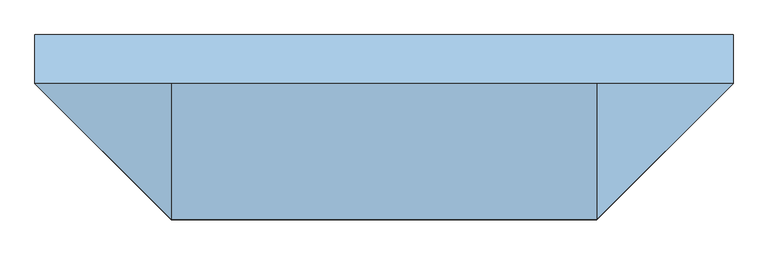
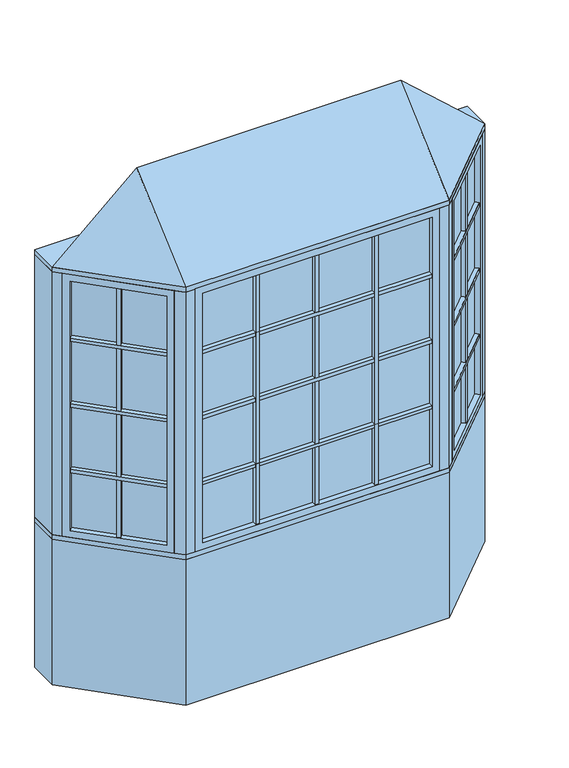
"""IFC4 building model written with IfcOpenShell, lengths in millimetres: window geometry, Pollard_Windows_Tudor Casement Bows and Bays : AML-BAY 45 AFR0514-12-500_GC."""

import ifcopenshell
import ifcopenshell.guid

model = None  # the IFC model being written
_history = None  # IfcOwnerHistory: only IFC2X3 demands one
_inside = {}  # id of a spatial element -> (the spatial element, [elements in it])
_under = {}  # id of a project, library or spatial element -> (it, [spatial elements below it])
_declared = {}  # id of a project -> (the project, [libraries it declares])
_typed = {}  # id of a type object -> (the type object, [elements of that type])
_made_of = {}  # id of a material, layer set ... -> (it, [elements and type objects made of it])


def new_model(schema):
    """Start an empty IFC model of exactly this schema.

    Asked for "IFC4X3", IfcOpenShell would pick the latest addendum, in which some entities
    have other attributes; the version numbers below select the first issue.
    IFC2X3 requires an IfcOwnerHistory on every rooted entity: one is made here for all.
    """
    global model, _history
    if schema == "IFC4X3":
        model = ifcopenshell.file(schema_version=(4, 3, 0, 0))
    else:
        model = ifcopenshell.file(schema=schema)
    _inside.clear()
    _under.clear()
    _declared.clear()
    _typed.clear()
    _made_of.clear()
    _history = None
    if model.schema == "IFC2X3":
        org = make("IfcOrganization", Name="unknown")
        user = make(
            "IfcPersonAndOrganization",
            ThePerson=make("IfcPerson", FamilyName="unknown"),
            TheOrganization=org,
        )
        app = make(
            "IfcApplication",
            ApplicationDeveloper=org,
            Version="unknown",
            ApplicationFullName="unknown",
            ApplicationIdentifier="unknown",
        )
        _history = make(
            "IfcOwnerHistory",
            OwningUser=user,
            OwningApplication=app,
            ChangeAction="ADDED",
            CreationDate=0,
        )
    return model


def make(cls, **values):
    """One entity of the class cls with the attributes given. An attribute that is None is left unset."""
    return model.create_entity(
        cls, **{name: value for name, value in values.items() if value is not None}
    )


def rooted(cls, **values):
    """An entity with a GlobalId (a new one), such as an element, a storey or a relation."""
    return make(cls, GlobalId=ifcopenshell.guid.new(), OwnerHistory=_history, **values)


def si_unit(unit_type, name, prefix=None):
    """IfcSIUnit, for example si_unit("LENGTHUNIT", "METRE", prefix="MILLI")."""
    return make("IfcSIUnit", UnitType=unit_type, Prefix=prefix, Name=name)


def assignment(units):
    """IfcUnitAssignment: the units of a project."""
    return None if units is None else make("IfcUnitAssignment", Units=units)


def point(xyz):
    """IfcCartesianPoint."""
    return None if xyz is None else make("IfcCartesianPoint", Coordinates=xyz)


def direction(xyz):
    """IfcDirection."""
    return None if xyz is None else make("IfcDirection", DirectionRatios=xyz)


def frame(location, z_axis=None, x_axis=None):
    """IfcAxis2Placement3D, a coordinate frame: its origin and axes. An axis left out is left unset."""
    return make(
        "IfcAxis2Placement3D",
        Location=point(location),
        Axis=direction(z_axis),
        RefDirection=direction(x_axis),
    )


def origin():
    """The frame at (0, 0, 0) with its axes left unset."""
    return frame((0.0, 0.0, 0.0))


def origin_with_axes():
    """The frame at (0, 0, 0) with the z axis (0, 0, 1) and the x axis (1, 0, 0) written out."""
    return frame((0.0, 0.0, 0.0), z_axis=(0.0, 0.0, 1.0), x_axis=(1.0, 0.0, 0.0))


def place(relative_to, where):
    """IfcLocalPlacement: puts the frame where relative to a parent placement (None: the world)."""
    return make(
        "IfcLocalPlacement", PlacementRelTo=relative_to, RelativePlacement=where
    )


def context(
    kind, dimensions, precision=None, world=None, true_north=None, identifier=None
):
    """IfcGeometricRepresentationContext, for example the 3D "Model" context."""
    return make(
        "IfcGeometricRepresentationContext",
        ContextIdentifier=identifier,
        ContextType=kind,
        CoordinateSpaceDimension=dimensions,
        Precision=precision,
        WorldCoordinateSystem=world,
        TrueNorth=true_north,
    )


def project(units=None, contexts=None):
    """IfcProject with its units and contexts."""
    return rooted(
        "IfcProject",
        Name="project",
        RepresentationContexts=contexts,
        UnitsInContext=assignment(units),
    )


def spatial(cls, under=None, at=None, **own):
    """A site, building, storey or space (cls), placed at a placement, below another one or the project."""
    s = rooted(cls, ObjectPlacement=at, **own)
    if under is not None:
        _under.setdefault(under.id(), (under, []))[1].append(s)
    return s


def polyline(points):
    """IfcPolyline through the points."""
    return make("IfcPolyline", Points=[point(p) for p in points])


def outline(outer, holes=None, kind="AREA"):
    """IfcArbitraryClosedProfileDef: a profile drawn as a closed curve; with holes, ...WithVoids."""
    if holes is None:
        return make("IfcArbitraryClosedProfileDef", ProfileType=kind, OuterCurve=outer)
    return make(
        "IfcArbitraryProfileDefWithVoids",
        ProfileType=kind,
        OuterCurve=outer,
        InnerCurves=holes,
    )


def extrude(swept, where, along, depth):
    """IfcExtrudedAreaSolid: the profile swept, set in the frame where, extruded along a direction by depth."""
    return make(
        "IfcExtrudedAreaSolid",
        SweptArea=swept,
        Position=where,
        ExtrudedDirection=direction(along),
        Depth=depth,
    )


def faces_of(points, faces, orient=None, outer=None):
    """IfcFace entities. A face is a list of loops; a loop is a list of indices into points, from 0.

    orient and outer hold one flag for each loop. By default every Orientation is true, the
    first loop of a face is its IfcFaceOuterBound and the others are IfcFaceBound.
    """
    made = []
    for i, loops in enumerate(faces):
        bounds = []
        for j, loop in enumerate(loops):
            is_outer = j == 0 if outer is None else outer[i][j]
            bounds.append(
                make(
                    "IfcFaceOuterBound" if is_outer else "IfcFaceBound",
                    Bound=make("IfcPolyLoop", Polygon=[points[k] for k in loop]),
                    Orientation=True if orient is None else orient[i][j],
                )
            )
        made.append(make("IfcFace", Bounds=bounds))
    return made


def faceted_brep(points, faces, orient=None, outer=None, voids=None):
    """IfcFacetedBrep: a solid bounded by flat faces; with voids (closed shells), ...WithVoids."""
    shared = [point(p) for p in points]
    hull = make("IfcClosedShell", CfsFaces=faces_of(shared, faces, orient, outer))
    if voids is None:
        return make("IfcFacetedBrep", Outer=hull)
    return make(
        "IfcFacetedBrepWithVoids",
        Outer=hull,
        Voids=[
            make(cls, CfsFaces=faces_of(shared, fs, o, b)) for cls, fs, o, b in voids
        ],
    )


def shape(context_of_items, identifier, shape_type, items):
    """IfcShapeRepresentation: the items that make up one representation, for example the "Body"."""
    return make(
        "IfcShapeRepresentation",
        ContextOfItems=context_of_items,
        RepresentationIdentifier=identifier,
        RepresentationType=shape_type,
        Items=items,
    )


def source(mapping_origin, context_of_items, identifier, shape_type, items):
    """IfcRepresentationMap: a shape defined once, which mapped items show again and again."""
    return make(
        "IfcRepresentationMap",
        MappingOrigin=mapping_origin,
        MappedRepresentation=shape(context_of_items, identifier, shape_type, items),
    )


def transform(
    local_origin,
    x_axis=None,
    y_axis=None,
    z_axis=None,
    scale=None,
    scale2=None,
    scale3=None,
    uniform=True,
):
    """IfcCartesianTransformationOperator3D, or its non-uniform kind. x_axis, y_axis, z_axis: its Axis1, 2, 3."""
    if uniform:
        return make(
            "IfcCartesianTransformationOperator3D",
            Axis1=direction(x_axis),
            Axis2=direction(y_axis),
            LocalOrigin=point(local_origin),
            Scale=scale,
            Axis3=direction(z_axis),
        )
    return make(
        "IfcCartesianTransformationOperator3DnonUniform",
        Axis1=direction(x_axis),
        Axis2=direction(y_axis),
        LocalOrigin=point(local_origin),
        Scale=scale,
        Axis3=direction(z_axis),
        Scale2=scale2,
        Scale3=scale3,
    )


def mapped(mapping_source, mapping_target):
    """IfcMappedItem: shows the shape of a source again, moved by a transform."""
    return make(
        "IfcMappedItem", MappingSource=mapping_source, MappingTarget=mapping_target
    )


def made_of(thing, what):
    """Note that an element or type object is made of a material, layer set ...; save() writes the relation."""
    if what is not None:
        _made_of.setdefault(what.id(), (what, []))[1].append(thing)
    return thing


def element(
    cls,
    number,
    at=None,
    inside=None,
    cuts=None,
    type_object=None,
    material=None,
    context=None,
    identifier="Body",
    shape_type=None,
    held_by="IfcProductDefinitionShape",
    body=None,
    shapes=None,
    **own,
):
    """One element of the class cls, such as IfcWall. Its Tag is "e" and its number.

    at: its placement. inside: the storey or other place that contains it. cuts: it is an
    opening in that element (IfcRelVoidsElement). A single representation is given by context,
    identifier, shape_type and body (its items); several are given by shapes. held_by: the class
    of the entity that holds the representations. save() writes the other relations.
    """
    e = rooted(cls, Tag="e%d" % number, ObjectPlacement=at, **own)
    if body is not None:
        shapes = [shape(context, identifier, shape_type, body)]
    if shapes is not None:
        e.Representation = make(held_by, Representations=shapes)
    if inside is not None:
        _inside.setdefault(inside.id(), (inside, []))[1].append(e)
    if cuts is not None:
        rooted(
            "IfcRelVoidsElement", RelatingBuildingElement=cuts, RelatedOpeningElement=e
        )
    if type_object is not None:
        _typed.setdefault(type_object.id(), (type_object, []))[1].append(e)
    return made_of(e, material)


def aggregate(whole, parts):
    """IfcRelAggregates: a whole, such as a stair, and the parts it consists of."""
    return rooted("IfcRelAggregates", RelatingObject=whole, RelatedObjects=parts)


def save(model, path):
    """Write the relations noted so far, then the file.

    IfcRelAggregates (storeys below a building ...), IfcRelContainedInSpatialStructure (elements
    in a storey), IfcRelDefinesByType, IfcRelAssociatesMaterial and IfcRelDeclares: one each for
    every whole, place, type object, material and project.
    """
    for whole, parts in _under.values():
        aggregate(whole, parts)
    for where, things in _inside.values():
        rooted(
            "IfcRelContainedInSpatialStructure",
            RelatedElements=things,
            RelatingStructure=where,
        )
    for kind, things in _typed.values():
        rooted("IfcRelDefinesByType", RelatedObjects=things, RelatingType=kind)
    for what, things in _made_of.values():
        rooted("IfcRelAssociatesMaterial", RelatedObjects=things, RelatingMaterial=what)
    for by, libraries in _declared.values():
        rooted("IfcRelDeclares", RelatingContext=by, RelatedDefinitions=libraries)
    model.write(path)


def window_b7071a71(model_context):
    return source(origin(), model_context, "Body", "SolidModel", [
        extrude(outline(polyline([(722.8614193, -437.1108753), (707.3050701, -421.5545261), (1015.116171, -113.7434252), (1030.6725202, -129.2997743), (722.8614193, -437.1108753)])), frame((0.0, 0.0, 1490.998), z_axis=(0.0, 0.0, 1.0), x_axis=(1.0, 0.0, 0.0)), (0.0, 0.0, 1.0), 18.0),
        extrude(outline(polyline([(703.7129677, -417.9624236), (688.1566185, -402.4060744), (995.9677194, -94.5949735), (1011.5240686, -110.1513227), (703.7129677, -417.9624236)])), frame((0.0, 0.0, 1490.998), z_axis=(0.0, 0.0, 1.0), x_axis=(1.0, 0.0, 0.0)), (0.0, 0.0, 1.0), 18.0),
        extrude(outline(polyline([(722.8614193, -437.1108753), (707.3050701, -421.5545261), (1015.116171, -113.7434252), (1030.6725202, -129.2997743), (722.8614193, -437.1108753)])), frame((0.0, 0.0, 1140.998), z_axis=(0.0, 0.0, 1.0), x_axis=(1.0, 0.0, 0.0)), (0.0, 0.0, 1.0), 18.0),
        extrude(outline(polyline([(703.7129677, -417.9624236), (688.1566185, -402.4060744), (995.9677194, -94.5949735), (1011.5240686, -110.1513227), (703.7129677, -417.9624236)])), frame((0.0, 0.0, 1140.998), z_axis=(0.0, 0.0, 1.0), x_axis=(1.0, 0.0, 0.0)), (0.0, 0.0, 1.0), 18.0),
        extrude(outline(polyline([(722.8614193, -437.1108753), (707.3050701, -421.5545261), (1015.116171, -113.7434252), (1030.6725202, -129.2997743), (722.8614193, -437.1108753)])), frame((0.0, 0.0, 1490.998), z_axis=(0.0, 0.0, 1.0), x_axis=(1.0, 0.0, 0.0)), (0.0, 0.0, 1.0), 18.0),
        extrude(outline(polyline([(703.7129677, -417.9624236), (688.1566185, -402.4060744), (995.9677194, -94.5949735), (1011.5240686, -110.1513227), (703.7129677, -417.9624236)])), frame((0.0, 0.0, 1490.998), z_axis=(0.0, 0.0, 1.0), x_axis=(1.0, 0.0, 0.0)), (0.0, 0.0, 1.0), 18.0),
        extrude(outline(polyline([(722.8614193, -437.1108753), (707.3050701, -421.5545261), (1015.116171, -113.7434252), (1030.6725202, -129.2997743), (722.8614193, -437.1108753)])), frame((0.0, 0.0, 1490.998), z_axis=(0.0, 0.0, 1.0), x_axis=(1.0, 0.0, 0.0)), (0.0, 0.0, 1.0), 18.0),
        extrude(outline(polyline([(703.7129677, -417.9624236), (688.1566185, -402.4060744), (995.9677194, -94.5949735), (1011.5240686, -110.1513227), (703.7129677, -417.9624236)])), frame((0.0, 0.0, 1490.998), z_axis=(0.0, 0.0, 1.0), x_axis=(1.0, 0.0, 0.0)), (0.0, 0.0, 1.0), 18.0),
        extrude(outline(polyline([(722.8614193, -437.1108753), (707.3050701, -421.5545261), (1015.116171, -113.7434252), (1030.6725202, -129.2997743), (722.8614193, -437.1108753)])), frame((0.0, 0.0, 1840.998), z_axis=(0.0, 0.0, 1.0), x_axis=(1.0, 0.0, 0.0)), (0.0, 0.0, 1.0), 18.0),
        extrude(outline(polyline([(703.7129677, -417.9624236), (688.1566185, -402.4060744), (995.9677194, -94.5949735), (1011.5240686, -110.1513227), (703.7129677, -417.9624236)])), frame((0.0, 0.0, 1840.998), z_axis=(0.0, 0.0, 1.0), x_axis=(1.0, 0.0, 0.0)), (0.0, 0.0, 1.0), 18.0),
        extrude(outline(polyline([(867.5745816, -261.2850146), (883.1309308, -276.8413638), (870.4030087, -289.5692858), (854.8466595, -274.0129366), (867.5745816, -261.2850146)])), frame((0.0, 0.0, 835.8628), z_axis=(0.0, 0.0, 1.0), x_axis=(1.0, 0.0, 0.0)), (0.0, 0.0, 1.0), 1328.2704),
        extrude(outline(polyline([(863.9824791, -257.6929121), (851.2545571, -270.4208342), (835.6982079, -254.864485), (848.42613, -242.1365629), (863.9824791, -257.6929121)])), frame((0.0, 0.0, 835.8628), z_axis=(0.0, 0.0, 1.0), x_axis=(1.0, 0.0, 0.0)), (0.0, 0.0, 1.0), 1328.2704),
        extrude(outline(polyline([(1024.0964271, -104.763169), (698.324814, -430.5347822), (694.7327115, -426.9426797), (1020.5043247, -101.1710666), (1024.0964271, -104.763169)])), frame((0.0, 0.0, 823.1628), z_axis=(0.0, 0.0, 1.0), x_axis=(1.0, 0.0, 0.0)), (0.0, 0.0, 1.0), 1353.6704),
        faceted_brep([(1015.116171, -113.7434252, 835.8628), (1033.0766833, -131.7039374, 835.8628), (1033.0766833, -131.7039374, 2164.1332), (1015.116171, -113.7434252, 2164.1332), (1020.5043247, -101.1710666, 823.1628), (1024.0964271, -104.763169, 823.1628), (1024.0964271, -104.763169, 2176.8332), (1020.5043247, -101.1710666, 2176.8332), (993.5635563, -92.1908105, 835.8628), (1011.5240686, -110.1513227, 835.8628), (1011.5240686, -110.1513227, 2164.1332), (993.5635563, -92.1908105, 2164.1332), (1058.4369265, -106.3436941, 799.998), (1018.9237996, -66.8305672, 799.998), (1018.9237996, -66.8305672, 2199.998), (1058.4369265, -106.3436941, 2199.998), (725.2655823, -439.5150383, 2164.1332), (707.3050701, -421.5545261, 2164.1332), (698.324814, -430.5347822, 2176.8332), (694.7327115, -426.9426797, 2176.8332), (703.7129677, -417.9624236, 2164.1332), (685.7524554, -400.0019114, 2164.1332), (660.3922121, -425.3621547, 2199.998), (699.9053391, -464.8752816, 2199.998), (725.2655823, -439.5150383, 835.8628), (707.3050701, -421.5545261, 835.8628), (698.324814, -430.5347822, 823.1628), (694.7327115, -426.9426797, 823.1628), (703.7129677, -417.9624236, 835.8628), (685.7524554, -400.0019114, 835.8628), (660.3922121, -425.3621547, 799.998), (699.9053391, -464.8752816, 799.998)], [[[0, 1, 2, 3]], [[4, 5, 6, 7]], [[8, 9, 10, 11]], [[12, 13, 14, 15]], [[3, 2, 16, 17]], [[7, 6, 18, 19]], [[11, 10, 20, 21]], [[15, 14, 22, 23]], [[17, 16, 24, 25]], [[19, 18, 26, 27]], [[21, 20, 28, 29]], [[23, 22, 30, 31]], [[25, 24, 1, 0]], [[5, 26, 18, 6], [3, 17, 25, 0]], [[27, 26, 5, 4]], [[7, 19, 27, 4], [9, 28, 20, 10]], [[29, 28, 9, 8]], [[13, 30, 22, 14], [11, 21, 29, 8]], [[31, 30, 13, 12]], [[15, 23, 31, 12], [1, 24, 16, 2]]]),
        extrude(outline(polyline([(309.1927, -474.8306207), (309.1927, -496.8306207), (291.1927, -496.8306207), (291.1927, -474.8306207), (309.1927, -474.8306207)])), frame((0.0, 0.0, 835.8628), z_axis=(0.0, 0.0, 1.0), x_axis=(1.0, 0.0, 0.0)), (0.0, 0.0, 1.0), 1328.2704),
        extrude(outline(polyline([(309.1927, -469.7506207), (291.1927, -469.7506207), (291.1927, -447.7506207), (309.1927, -447.7506207), (309.1927, -469.7506207)])), frame((0.0, 0.0, 835.8628), z_axis=(0.0, 0.0, 1.0), x_axis=(1.0, 0.0, 0.0)), (0.0, 0.0, 1.0), 1328.2704),
        extrude(outline(polyline([(-291.1927, -474.8306207), (-291.1927, -496.8306207), (-309.1927, -496.8306207), (-309.1927, -474.8306207), (-291.1927, -474.8306207)])), frame((0.0, 0.0, 835.8628), z_axis=(0.0, 0.0, 1.0), x_axis=(1.0, 0.0, 0.0)), (0.0, 0.0, 1.0), 1328.2704),
        extrude(outline(polyline([(-291.1927, -469.7506207), (-309.1927, -469.7506207), (-309.1927, -447.7506207), (-291.1927, -447.7506207), (-291.1927, -469.7506207)])), frame((0.0, 0.0, 835.8628), z_axis=(0.0, 0.0, 1.0), x_axis=(1.0, 0.0, 0.0)), (0.0, 0.0, 1.0), 1328.2704),
        extrude(outline(polyline([(-578.6852, -496.8306207), (-578.6852, -474.8306207), (578.6852, -474.8306207), (578.6852, -496.8306207), (-578.6852, -496.8306207)])), frame((0.0, 0.0, 1140.998), z_axis=(0.0, 0.0, 1.0), x_axis=(1.0, 0.0, 0.0)), (0.0, 0.0, 1.0), 18.0),
        extrude(outline(polyline([(-578.6852, -469.7506207), (-578.6852, -447.7506207), (578.6852, -447.7506207), (578.6852, -469.7506207), (-578.6852, -469.7506207)])), frame((0.0, 0.0, 1140.998), z_axis=(0.0, 0.0, 1.0), x_axis=(1.0, 0.0, 0.0)), (0.0, 0.0, 1.0), 18.0),
        extrude(outline(polyline([(-578.6852, -496.8306207), (-578.6852, -474.8306207), (578.6852, -474.8306207), (578.6852, -496.8306207), (-578.6852, -496.8306207)])), frame((0.0, 0.0, 1490.998), z_axis=(0.0, 0.0, 1.0), x_axis=(1.0, 0.0, 0.0)), (0.0, 0.0, 1.0), 18.0),
        extrude(outline(polyline([(-578.6852, -469.7506207), (-578.6852, -447.7506207), (578.6852, -447.7506207), (578.6852, -469.7506207), (-578.6852, -469.7506207)])), frame((0.0, 0.0, 1490.998), z_axis=(0.0, 0.0, 1.0), x_axis=(1.0, 0.0, 0.0)), (0.0, 0.0, 1.0), 18.0),
        extrude(outline(polyline([(-578.6852, -496.8306207), (-578.6852, -474.8306207), (578.6852, -474.8306207), (578.6852, -496.8306207), (-578.6852, -496.8306207)])), frame((0.0, 0.0, 1490.998), z_axis=(0.0, 0.0, 1.0), x_axis=(1.0, 0.0, 0.0)), (0.0, 0.0, 1.0), 18.0),
        extrude(outline(polyline([(-578.6852, -469.7506207), (-578.6852, -447.7506207), (578.6852, -447.7506207), (578.6852, -469.7506207), (-578.6852, -469.7506207)])), frame((0.0, 0.0, 1490.998), z_axis=(0.0, 0.0, 1.0), x_axis=(1.0, 0.0, 0.0)), (0.0, 0.0, 1.0), 18.0),
        extrude(outline(polyline([(-578.6852, -496.8306207), (-578.6852, -474.8306207), (578.6852, -474.8306207), (578.6852, -496.8306207), (-578.6852, -496.8306207)])), frame((0.0, 0.0, 1490.998), z_axis=(0.0, 0.0, 1.0), x_axis=(1.0, 0.0, 0.0)), (0.0, 0.0, 1.0), 18.0),
        extrude(outline(polyline([(-578.6852, -469.7506207), (-578.6852, -447.7506207), (578.6852, -447.7506207), (578.6852, -469.7506207), (-578.6852, -469.7506207)])), frame((0.0, 0.0, 1490.998), z_axis=(0.0, 0.0, 1.0), x_axis=(1.0, 0.0, 0.0)), (0.0, 0.0, 1.0), 18.0),
        extrude(outline(polyline([(-1030.6725202, -129.2997743), (-1015.116171, -113.7434252), (-707.3050701, -421.5545261), (-722.8614193, -437.1108753), (-1030.6725202, -129.2997743)])), frame((0.0, 0.0, 1140.998), z_axis=(0.0, 0.0, 1.0), x_axis=(1.0, 0.0, 0.0)), (0.0, 0.0, 1.0), 18.0),
        extrude(outline(polyline([(-1011.5240686, -110.1513227), (-995.9677194, -94.5949735), (-688.1566185, -402.4060744), (-703.7129677, -417.9624236), (-1011.5240686, -110.1513227)])), frame((0.0, 0.0, 1140.998), z_axis=(0.0, 0.0, 1.0), x_axis=(1.0, 0.0, 0.0)), (0.0, 0.0, 1.0), 18.0),
        extrude(outline(polyline([(-1030.6725202, -129.2997743), (-1015.116171, -113.7434252), (-707.3050701, -421.5545261), (-722.8614193, -437.1108753), (-1030.6725202, -129.2997743)])), frame((0.0, 0.0, 1490.998), z_axis=(0.0, 0.0, 1.0), x_axis=(1.0, 0.0, 0.0)), (0.0, 0.0, 1.0), 18.0),
        extrude(outline(polyline([(-1011.5240686, -110.1513227), (-995.9677194, -94.5949735), (-688.1566185, -402.4060744), (-703.7129677, -417.9624236), (-1011.5240686, -110.1513227)])), frame((0.0, 0.0, 1490.998), z_axis=(0.0, 0.0, 1.0), x_axis=(1.0, 0.0, 0.0)), (0.0, 0.0, 1.0), 18.0),
        extrude(outline(polyline([(-1030.6725202, -129.2997743), (-1015.116171, -113.7434252), (-707.3050701, -421.5545261), (-722.8614193, -437.1108753), (-1030.6725202, -129.2997743)])), frame((0.0, 0.0, 1490.998), z_axis=(0.0, 0.0, 1.0), x_axis=(1.0, 0.0, 0.0)), (0.0, 0.0, 1.0), 18.0),
        extrude(outline(polyline([(-1011.5240686, -110.1513227), (-995.9677194, -94.5949735), (-688.1566185, -402.4060744), (-703.7129677, -417.9624236), (-1011.5240686, -110.1513227)])), frame((0.0, 0.0, 1490.998), z_axis=(0.0, 0.0, 1.0), x_axis=(1.0, 0.0, 0.0)), (0.0, 0.0, 1.0), 18.0),
        extrude(outline(polyline([(-1030.6725202, -129.2997743), (-1015.116171, -113.7434252), (-707.3050701, -421.5545261), (-722.8614193, -437.1108753), (-1030.6725202, -129.2997743)])), frame((0.0, 0.0, 1490.998), z_axis=(0.0, 0.0, 1.0), x_axis=(1.0, 0.0, 0.0)), (0.0, 0.0, 1.0), 18.0),
        extrude(outline(polyline([(-1011.5240686, -110.1513227), (-995.9677194, -94.5949735), (-688.1566185, -402.4060744), (-703.7129677, -417.9624236), (-1011.5240686, -110.1513227)])), frame((0.0, 0.0, 1490.998), z_axis=(0.0, 0.0, 1.0), x_axis=(1.0, 0.0, 0.0)), (0.0, 0.0, 1.0), 18.0),
        extrude(outline(polyline([(-1030.6725202, -129.2997743), (-1015.116171, -113.7434252), (-707.3050701, -421.5545261), (-722.8614193, -437.1108753), (-1030.6725202, -129.2997743)])), frame((0.0, 0.0, 1840.998), z_axis=(0.0, 0.0, 1.0), x_axis=(1.0, 0.0, 0.0)), (0.0, 0.0, 1.0), 18.0),
        extrude(outline(polyline([(-1011.5240686, -110.1513227), (-995.9677194, -94.5949735), (-688.1566185, -402.4060744), (-703.7129677, -417.9624236), (-1011.5240686, -110.1513227)])), frame((0.0, 0.0, 1840.998), z_axis=(0.0, 0.0, 1.0), x_axis=(1.0, 0.0, 0.0)), (0.0, 0.0, 1.0), 18.0),
        extrude(outline(polyline([(-578.6852, -496.8306207), (-578.6852, -474.8306207), (578.6852, -474.8306207), (578.6852, -496.8306207), (-578.6852, -496.8306207)])), frame((0.0, 0.0, 1840.998), z_axis=(0.0, 0.0, 1.0), x_axis=(1.0, 0.0, 0.0)), (0.0, 0.0, 1.0), 18.0),
        extrude(outline(polyline([(-578.6852, -469.7506207), (-578.6852, -447.7506207), (578.6852, -447.7506207), (578.6852, -469.7506207), (-578.6852, -469.7506207)])), frame((0.0, 0.0, 1840.998), z_axis=(0.0, 0.0, 1.0), x_axis=(1.0, 0.0, 0.0)), (0.0, 0.0, 1.0), 18.0),
        extrude(outline(polyline([(-854.8466595, -274.0129366), (-870.4030087, -289.5692858), (-883.1309308, -276.8413638), (-867.5745816, -261.2850146), (-854.8466595, -274.0129366)])), frame((0.0, 0.0, 835.8628), z_axis=(0.0, 0.0, 1.0), x_axis=(1.0, 0.0, 0.0)), (0.0, 0.0, 1.0), 1328.2704),
        extrude(outline(polyline([(-851.2545571, -270.4208342), (-863.9824791, -257.6929121), (-848.42613, -242.1365629), (-835.6982079, -254.864485), (-851.2545571, -270.4208342)])), frame((0.0, 0.0, 835.8628), z_axis=(0.0, 0.0, 1.0), x_axis=(1.0, 0.0, 0.0)), (0.0, 0.0, 1.0), 1328.2704),
        extrude(outline(polyline([(9.0, -474.8306207), (9.0, -496.8306207), (-9.0, -496.8306207), (-9.0, -474.8306207), (9.0, -474.8306207)])), frame((0.0, 0.0, 835.8628), z_axis=(0.0, 0.0, 1.0), x_axis=(1.0, 0.0, 0.0)), (0.0, 0.0, 1.0), 1328.2704),
        extrude(outline(polyline([(9.0, -469.7506207), (-9.0, -469.7506207), (-9.0, -447.7506207), (9.0, -447.7506207), (9.0, -469.7506207)])), frame((0.0, 0.0, 835.8628), z_axis=(0.0, 0.0, 1.0), x_axis=(1.0, 0.0, 0.0)), (0.0, 0.0, 1.0), 1328.2704),
        extrude(outline(polyline([(-698.324814, -430.5347822), (-1024.0964271, -104.763169), (-1020.5043247, -101.1710666), (-694.7327115, -426.9426797), (-698.324814, -430.5347822)])), frame((0.0, 0.0, 823.1628), z_axis=(0.0, 0.0, 1.0), x_axis=(1.0, 0.0, 0.0)), (0.0, 0.0, 1.0), 1353.6704),
        faceted_brep([(-703.7129677, -417.9624236, 2164.1332), (-685.7524554, -400.0019114, 2164.1332), (-685.7524554, -400.0019114, 835.8628), (-703.7129677, -417.9624236, 835.8628), (-698.324814, -430.5347822, 2176.8332), (-694.7327115, -426.9426797, 2176.8332), (-694.7327115, -426.9426797, 823.1628), (-698.324814, -430.5347822, 823.1628), (-725.2655823, -439.5150383, 2164.1332), (-707.3050701, -421.5545261, 2164.1332), (-707.3050701, -421.5545261, 835.8628), (-725.2655823, -439.5150383, 835.8628), (-660.3922121, -425.3621547, 2199.998), (-699.9053391, -464.8752816, 2199.998), (-699.9053391, -464.8752816, 799.998), (-660.3922121, -425.3621547, 799.998), (-993.5635563, -92.1908105, 835.8628), (-1011.5240686, -110.1513227, 835.8628), (-1020.5043247, -101.1710666, 823.1628), (-1024.0964271, -104.763169, 823.1628), (-1015.116171, -113.7434252, 835.8628), (-1033.0766833, -131.7039374, 835.8628), (-1058.4369265, -106.3436941, 799.998), (-1018.9237996, -66.8305672, 799.998), (-993.5635563, -92.1908105, 2164.1332), (-1011.5240686, -110.1513227, 2164.1332), (-1020.5043247, -101.1710666, 2176.8332), (-1024.0964271, -104.763169, 2176.8332), (-1015.116171, -113.7434252, 2164.1332), (-1033.0766833, -131.7039374, 2164.1332), (-1058.4369265, -106.3436941, 2199.998), (-1018.9237996, -66.8305672, 2199.998)], [[[0, 1, 2, 3]], [[4, 5, 6, 7]], [[8, 9, 10, 11]], [[12, 13, 14, 15]], [[3, 2, 16, 17]], [[7, 6, 18, 19]], [[11, 10, 20, 21]], [[15, 14, 22, 23]], [[17, 16, 24, 25]], [[19, 18, 26, 27]], [[21, 20, 28, 29]], [[23, 22, 30, 31]], [[15, 23, 31, 12], [1, 24, 16, 2]], [[25, 24, 1, 0]], [[5, 26, 18, 6], [3, 17, 25, 0]], [[27, 26, 5, 4]], [[7, 19, 27, 4], [9, 28, 20, 10]], [[29, 28, 9, 8]], [[13, 30, 22, 14], [11, 21, 29, 8]], [[31, 30, 13, 12]]]),
        extrude(outline(polyline([(591.3852, -474.8306207), (-591.3852, -474.8306207), (-591.3852, -469.7506207), (591.3852, -469.7506207), (591.3852, -474.8306207)])), frame((0.0, 0.0, 823.1628), z_axis=(0.0, 0.0, 1.0), x_axis=(1.0, 0.0, 0.0)), (0.0, 0.0, 1.0), 1353.6704),
        faceted_brep([(578.6852, -474.8306207, 835.8628), (578.6852, -500.2306207, 835.8628), (578.6852, -500.2306207, 2164.1332), (578.6852, -474.8306207, 2164.1332), (591.3852, -469.7506207, 823.1628), (591.3852, -474.8306207, 823.1628), (591.3852, -474.8306207, 2176.8332), (591.3852, -469.7506207, 2176.8332), (578.6852, -444.3506207, 835.8628), (578.6852, -469.7506207, 835.8628), (578.6852, -469.7506207, 2164.1332), (578.6852, -444.3506207, 2164.1332), (614.55, -500.2306207, 799.998), (614.55, -444.3506207, 799.998), (614.55, -444.3506207, 2199.998), (614.55, -500.2306207, 2199.998), (-578.6852, -500.2306207, 2164.1332), (-578.6852, -474.8306207, 2164.1332), (-591.3852, -474.8306207, 2176.8332), (-591.3852, -469.7506207, 2176.8332), (-578.6852, -469.7506207, 2164.1332), (-578.6852, -444.3506207, 2164.1332), (-614.55, -444.3506207, 2199.998), (-614.55, -500.2306207, 2199.998), (-578.6852, -500.2306207, 835.8628), (-578.6852, -474.8306207, 835.8628), (-591.3852, -474.8306207, 823.1628), (-591.3852, -469.7506207, 823.1628), (-578.6852, -469.7506207, 835.8628), (-578.6852, -444.3506207, 835.8628), (-614.55, -444.3506207, 799.998), (-614.55, -500.2306207, 799.998)], [[[0, 1, 2, 3]], [[4, 5, 6, 7]], [[8, 9, 10, 11]], [[12, 13, 14, 15]], [[3, 2, 16, 17]], [[7, 6, 18, 19]], [[11, 10, 20, 21]], [[15, 14, 22, 23]], [[17, 16, 24, 25]], [[19, 18, 26, 27]], [[21, 20, 28, 29]], [[23, 22, 30, 31]], [[15, 23, 31, 12], [1, 24, 16, 2]], [[25, 24, 1, 0]], [[5, 26, 18, 6], [3, 17, 25, 0]], [[27, 26, 5, 4]], [[7, 19, 27, 4], [9, 28, 20, 10]], [[29, 28, 9, 8]], [[13, 30, 22, 14], [11, 21, 29, 8]], [[31, 30, 13, 12]]]),
        faceted_brep([(1090.0, -74.7806207, 2225.398), (664.55, -500.2306207, 2225.398), (-664.55, -500.2306207, 2225.398), (-1090.0, -74.7806207, 2225.398), (-664.55, -74.7806207, 2606.398), (664.55, -74.7806207, 2606.398)], [[[0, 1, 2, 3]], [[3, 2, 4]], [[2, 1, 5, 4]], [[1, 0, 5]], [[0, 3, 4, 5]]]),
        extrude(outline(polyline([(-1090.0, 77.6193793), (1090.0, 77.6193793), (1090.0, -74.7806207), (664.55, -500.2306207), (-664.55, -500.2306207), (-1090.0, -74.7806207), (-1090.0, 77.6193793)])), frame((0.0, 0.0, 2199.998), z_axis=(0.0, 0.0, 1.0), x_axis=(1.0, 0.0, 0.0)), (0.0, 0.0, 1.0), 25.4),
        extrude(outline(polyline([(-1090.0, -74.7806207), (-1090.0, 77.6193793), (-1026.8738531, 77.6193793), (-1026.8738531, -74.7806207), (-1058.4369265, -106.3436941), (-1090.0, -74.7806207)])), frame((0.0, 0.0, 799.998), z_axis=(0.0, 0.0, 1.0), x_axis=(1.0, 0.0, 0.0)), (0.0, 0.0, 1.0), 1400.0),
        extrude(outline(polyline([(1090.0, 77.6193793), (1090.0, -74.7806207), (1058.4369265, -106.3436941), (1026.8738531, -74.7806207), (1026.8738531, 77.6193793), (1090.0, 77.6193793)])), frame((0.0, 0.0, 799.998), z_axis=(0.0, 0.0, 1.0), x_axis=(1.0, 0.0, 0.0)), (0.0, 0.0, 1.0), 1400.0),
        extrude(outline(polyline([(664.55, -500.2306207), (614.55, -500.2306207), (614.55, -450.2306207), (643.8393219, -450.2306207), (664.55, -429.5199425), (699.9053391, -464.8752816), (664.55, -500.2306207)])), frame((0.0, 0.0, 799.998), z_axis=(0.0, 0.0, 1.0), x_axis=(1.0, 0.0, 0.0)), (0.0, 0.0, 1.0), 1400.0),
        extrude(outline(polyline([(-664.55, -500.2306207), (-699.9053391, -464.8752816), (-664.55, -429.5199425), (-643.8393219, -450.2306207), (-614.55, -450.2306207), (-614.55, -500.2306207), (-664.55, -500.2306207)])), frame((0.0, 0.0, 799.998), z_axis=(0.0, 0.0, 1.0), x_axis=(1.0, 0.0, 0.0)), (0.0, 0.0, 1.0), 1400.0),
        extrude(outline(polyline([(-664.55, -500.2306207), (-1090.0, -74.7806207), (-1090.0, 77.6193793), (-1026.8738531, 77.6193793), (-601.4238531, -347.8306207), (601.4238531, -347.8306207), (1026.8738531, 77.6193793), (1090.0, 77.6193793), (1090.0, -74.7806207), (664.55, -500.2306207), (-664.55, -500.2306207)])), frame((0.0, 0.0, 774.598), z_axis=(0.0, 0.0, 1.0), x_axis=(1.0, 0.0, 0.0)), (0.0, 0.0, 1.0), 25.4),
        extrude(outline(polyline([(-1090.0, -74.7806207), (-1090.0, 77.6193793), (-1026.8738531, 77.6193793), (-601.4238531, -347.8306207), (601.4238531, -347.8306207), (1026.8738531, 77.6193793), (1090.0, 77.6193793), (1090.0, -74.7806207), (664.55, -500.2306207), (-664.55, -500.2306207), (-1090.0, -74.7806207)])), origin_with_axes(), (0.0, 0.0, 1.0), 774.598),
    ])


if __name__ == "__main__":
    model = new_model("IFC4")
    model_context = context("Model", 3, world=origin())
    ifc_project = project(units=[si_unit("LENGTHUNIT", "METRE", prefix="MILLI")], contexts=[model_context])
    site = spatial("IfcSite", under=ifc_project)
    building = spatial("IfcBuilding", under=site)
    placement = place(None, origin())
    window_shape = window_b7071a71(model_context)
    element("IfcWindow", 1, ObjectType="Pollard_Windows_Tudor Casement Bows and Bays : AML-BAY 45 AFR0514-12-500_GC", at=placement, inside=building, context=model_context, shape_type="MappedRepresentation", body=[
        mapped(window_shape, transform((0.0, 0.0, 0.0), x_axis=(1.0, 0.0, 0.0), y_axis=(0.0, 1.0, 0.0), z_axis=(0.0, 0.0, 1.0))),
    ])
    save(model, "model.ifc")
